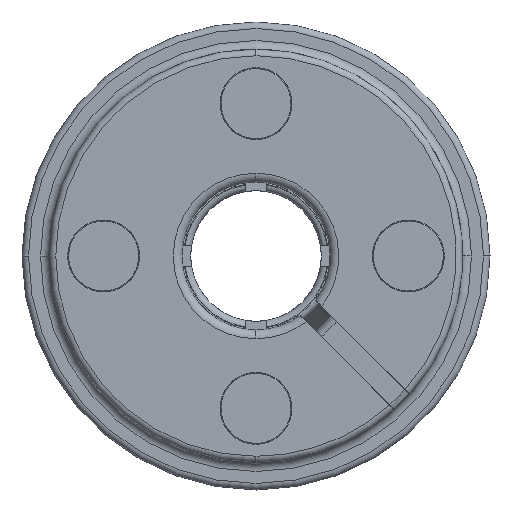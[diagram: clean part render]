
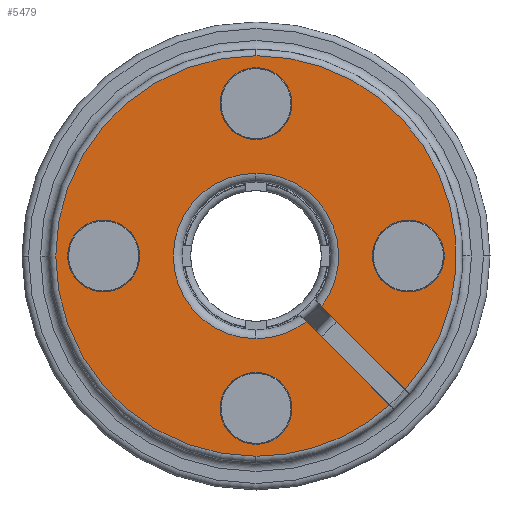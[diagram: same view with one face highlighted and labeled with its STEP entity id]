
A CAD part, left-side view. The second image highlights one B-rep face of the part: STEP entity #5479.
In plain terms, the highlighted planar face has unit normal (-1, 0, 0).
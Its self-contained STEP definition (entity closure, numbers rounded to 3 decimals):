
#2549 = CARTESIAN_POINT ( 'NONE',  ( -4.188, -2.641, -2.31 ) ) ;
#2626 = DIRECTION ( 'NONE',  ( 0., 0., 1. ) ) ;
#2653 = CARTESIAN_POINT ( 'NONE',  ( -4.188, 0.376, 3.8 ) ) ;
#2660 = AXIS2_PLACEMENT_3D ( 'NONE', #2666, #2661, #2626 ) ;
#2661 = DIRECTION ( 'NONE',  ( -1., 0., 0. ) ) ;
#2662 = CIRCLE ( 'NONE', #2660, 9.2 ) ;
#2666 = CARTESIAN_POINT ( 'NONE',  ( -4.188, 0.376, 0. ) ) ;
#2927 = DIRECTION ( 'NONE',  ( 1., 0., 0. ) ) ;
#3102 = DIRECTION ( 'NONE',  ( 0., 0., -1. ) ) ;
#3117 = CARTESIAN_POINT ( 'NONE',  ( -4.188, 0.376, 9.2 ) ) ;
#3130 = DIRECTION ( 'NONE',  ( 0., 0., 1. ) ) ;
#3131 = DIRECTION ( 'NONE',  ( 1., 0., 0. ) ) ;
#3132 = CARTESIAN_POINT ( 'NONE',  ( -4.188, -6.624, 0. ) ) ;
#3133 = AXIS2_PLACEMENT_3D ( 'NONE', #3132, #3131, #3130 ) ;
#3147 = CARTESIAN_POINT ( 'NONE',  ( -4.188, 7.376, 0. ) ) ;
#3148 = AXIS2_PLACEMENT_3D ( 'NONE', #3147, #2927, #3102 ) ;
#3155 = DIRECTION ( 'NONE',  ( 0., 0., 1. ) ) ;
#3156 = DIRECTION ( 'NONE',  ( -1., 0., 0. ) ) ;
#3157 = CARTESIAN_POINT ( 'NONE',  ( -4.188, 0.376, 0. ) ) ;
#3158 = AXIS2_PLACEMENT_3D ( 'NONE', #3157, #3156, #3155 ) ;
#3161 = CIRCLE ( 'NONE', #3148, 1.65 ) ;
#3163 = CIRCLE ( 'NONE', #3158, 9.2 ) ;
#3165 = CIRCLE ( 'NONE', #3133, 1.65 ) ;
#3170 = DIRECTION ( 'NONE',  ( -1., 0., 0. ) ) ;
#3172 = DIRECTION ( 'NONE',  ( 0., 0., 1. ) ) ;
#3173 = CARTESIAN_POINT ( 'NONE',  ( -4.188, 0.376, -9.2 ) ) ;
#3176 = CIRCLE ( 'NONE', #3186, 3.8 ) ;
#3177 = CARTESIAN_POINT ( 'NONE',  ( -4.188, 0.376, 0. ) ) ;
#3186 = AXIS2_PLACEMENT_3D ( 'NONE', #3177, #3170, #3172 ) ;
#3200 = CARTESIAN_POINT ( 'NONE',  ( -4.188, -6.473, -6.142 ) ) ;
#3205 = CARTESIAN_POINT ( 'NONE',  ( -4.188, -6.624, 1.65 ) ) ;
#3218 = DIRECTION ( 'NONE',  ( 0., -1., 0. ) ) ;
#3219 = DIRECTION ( 'NONE',  ( 1., 0., 0. ) ) ;
#3230 = CARTESIAN_POINT ( 'NONE',  ( -4.188, 0.376, -7. ) ) ;
#3237 = AXIS2_PLACEMENT_3D ( 'NONE', #3230, #3219, #3218 ) ;
#3242 = CIRCLE ( 'NONE', #3237, 1.65 ) ;
#3244 = CARTESIAN_POINT ( 'NONE',  ( -4.188, -1.274, -7. ) ) ;
#3277 = CARTESIAN_POINT ( 'NONE',  ( -4.188, -6.624, -1.65 ) ) ;
#3307 = CARTESIAN_POINT ( 'NONE',  ( -4.188, 7.376, 1.65 ) ) ;
#3311 = DIRECTION ( 'NONE',  ( 0., 0., -1. ) ) ;
#3317 = AXIS2_PLACEMENT_3D ( 'NONE', #3341, #3381, #3311 ) ;
#3331 = CARTESIAN_POINT ( 'NONE',  ( -4.188, 0.376, 7. ) ) ;
#3332 = CIRCLE ( 'NONE', #3317, 1.65 ) ;
#3335 = CARTESIAN_POINT ( 'NONE',  ( -4.188, 7.376, -1.65 ) ) ;
#3341 = CARTESIAN_POINT ( 'NONE',  ( -4.188, 7.376, 0. ) ) ;
#3356 = AXIS2_PLACEMENT_3D ( 'NONE', #3331, #3399, #3398 ) ;
#3374 = CARTESIAN_POINT ( 'NONE',  ( -4.188, 2.026, -7. ) ) ;
#3381 = DIRECTION ( 'NONE',  ( 1., 0., 0. ) ) ;
#3390 = CIRCLE ( 'NONE', #3356, 1.65 ) ;
#3398 = DIRECTION ( 'NONE',  ( 0., 1., 0. ) ) ;
#3399 = DIRECTION ( 'NONE',  ( 1., 0., 0. ) ) ;
#3436 = DIRECTION ( 'NONE',  ( 1., 0., 0. ) ) ;
#3449 = CARTESIAN_POINT ( 'NONE',  ( -4.188, 9.576, 0. ) ) ;
#3469 = CARTESIAN_POINT ( 'NONE',  ( -4.188, -1.274, 7. ) ) ;
#3502 = PLANE ( 'NONE',  #3503 ) ;
#3503 = AXIS2_PLACEMENT_3D ( 'NONE', #3449, #3436, #3568 ) ;
#3524 = CARTESIAN_POINT ( 'NONE',  ( -4.188, -0.902, -1.985 ) ) ;
#3537 = DIRECTION ( 'NONE',  ( 1., 0., 0. ) ) ;
#3538 = CARTESIAN_POINT ( 'NONE',  ( -4.188, 0.376, 7. ) ) ;
#3539 = CIRCLE ( 'NONE', #3550, 1.65 ) ;
#3542 = AXIS2_PLACEMENT_3D ( 'NONE', #3565, #3564, #3563 ) ;
#3543 = DIRECTION ( 'NONE',  ( 0., 0.707, 0.707 ) ) ;
#3544 = VECTOR ( 'NONE', #3543, 1000. ) ;
#3545 = CARTESIAN_POINT ( 'NONE',  ( -4.188, -1.934, -3.017 ) ) ;
#3550 = AXIS2_PLACEMENT_3D ( 'NONE', #3538, #3537, #3571 ) ;
#3554 = CARTESIAN_POINT ( 'NONE',  ( -4.188, 2.026, 7. ) ) ;
#3563 = DIRECTION ( 'NONE',  ( 0., 0., 1. ) ) ;
#3564 = DIRECTION ( 'NONE',  ( -1., 0., 0. ) ) ;
#3565 = CARTESIAN_POINT ( 'NONE',  ( -4.188, 0.376, 0. ) ) ;
#3566 = CIRCLE ( 'NONE', #3542, 3.8 ) ;
#3568 = DIRECTION ( 'NONE',  ( 0., 0., -1. ) ) ;
#3571 = DIRECTION ( 'NONE',  ( 0., 1., 0. ) ) ;
#3573 = LINE ( 'NONE', #3524, #3544 ) ;
#3584 = CARTESIAN_POINT ( 'NONE',  ( -4.188, 0.376, 0. ) ) ;
#3626 = CARTESIAN_POINT ( 'NONE',  ( -4.188, 0.376, -3.8 ) ) ;
#3653 = DIRECTION ( 'NONE',  ( 0., 0., 1. ) ) ;
#3654 = DIRECTION ( 'NONE',  ( -1., 0., 0. ) ) ;
#3717 = AXIS2_PLACEMENT_3D ( 'NONE', #3584, #3654, #3653 ) ;
#3733 = CIRCLE ( 'NONE', #3717, 3.8 ) ;
#3743 = AXIS2_PLACEMENT_3D ( 'NONE', #3767, #3766, #3765 ) ;
#3747 = CIRCLE ( 'NONE', #3743, 1.65 ) ;
#3749 = AXIS2_PLACEMENT_3D ( 'NONE', #3772, #3771, #3761 ) ;
#3750 = FACE_OUTER_BOUND ( 'NONE', #5489, .T. ) ;
#3751 = AXIS2_PLACEMENT_3D ( 'NONE', #3760, #3759, #3758 ) ;
#3752 = FACE_BOUND ( 'NONE', #5466, .T. ) ;
#3753 = FACE_BOUND ( 'NONE', #5498, .T. ) ;
#3754 = DIRECTION ( 'NONE',  ( 0., -0.707, -0.707 ) ) ;
#3755 = VECTOR ( 'NONE', #3754, 1000. ) ;
#3756 = CARTESIAN_POINT ( 'NONE',  ( -4.188, -1.609, -1.278 ) ) ;
#3757 = LINE ( 'NONE', #3756, #3755 ) ;
#3758 = DIRECTION ( 'NONE',  ( 0., 0., 1. ) ) ;
#3759 = DIRECTION ( 'NONE',  ( -1., 0., 0. ) ) ;
#3760 = CARTESIAN_POINT ( 'NONE',  ( -4.188, 0.376, 0. ) ) ;
#3761 = DIRECTION ( 'NONE',  ( 0., -1., 0. ) ) ;
#3765 = DIRECTION ( 'NONE',  ( 0., 0., 1. ) ) ;
#3766 = DIRECTION ( 'NONE',  ( 1., 0., 0. ) ) ;
#3767 = CARTESIAN_POINT ( 'NONE',  ( -4.188, -6.624, 0. ) ) ;
#3768 = CIRCLE ( 'NONE', #3749, 1.65 ) ;
#3771 = DIRECTION ( 'NONE',  ( 1., 0., 0. ) ) ;
#3772 = CARTESIAN_POINT ( 'NONE',  ( -4.188, 0.376, -7. ) ) ;
#3773 = FACE_BOUND ( 'NONE', #5450, .T. ) ;
#3774 = CIRCLE ( 'NONE', #3751, 9.2 ) ;
#3776 = FACE_BOUND ( 'NONE', #5445, .T. ) ;
#3789 = CARTESIAN_POINT ( 'NONE',  ( -4.188, -5.766, -6.849 ) ) ;
#5053 = VERTEX_POINT ( 'NONE', #3626 ) ;
#5060 = EDGE_CURVE ( 'NONE', #5175, #5053, #3733, .T. ) ;
#5131 = VERTEX_POINT ( 'NONE', #2549 ) ;
#5175 = VERTEX_POINT ( 'NONE', #2653 ) ;
#5203 = EDGE_CURVE ( 'NONE', #5215, #5259, #2662, .T. ) ;
#5215 = VERTEX_POINT ( 'NONE', #3117 ) ;
#5223 = EDGE_CURVE ( 'NONE', #5288, #5247, #3165, .T. ) ;
#5230 = EDGE_CURVE ( 'NONE', #5252, #5215, #3163, .T. ) ;
#5243 = EDGE_CURVE ( 'NONE', #5131, #5175, #3176, .T. ) ;
#5247 = VERTEX_POINT ( 'NONE', #3205 ) ;
#5252 = VERTEX_POINT ( 'NONE', #3200 ) ;
#5259 = VERTEX_POINT ( 'NONE', #3173 ) ;
#5266 = EDGE_CURVE ( 'NONE', #5316, #5358, #3161, .T. ) ;
#5274 = EDGE_CURVE ( 'NONE', #5350, #5280, #3242, .T. ) ;
#5280 = VERTEX_POINT ( 'NONE', #3244 ) ;
#5288 = VERTEX_POINT ( 'NONE', #3277 ) ;
#5316 = VERTEX_POINT ( 'NONE', #3307 ) ;
#5322 = EDGE_CURVE ( 'NONE', #5404, #5440, #3390, .T. ) ;
#5350 = VERTEX_POINT ( 'NONE', #3374 ) ;
#5358 = VERTEX_POINT ( 'NONE', #3335 ) ;
#5387 = EDGE_CURVE ( 'NONE', #5358, #5316, #3332, .T. ) ;
#5404 = VERTEX_POINT ( 'NONE', #3469 ) ;
#5440 = VERTEX_POINT ( 'NONE', #3554 ) ;
#5445 = EDGE_LOOP ( 'NONE', ( #5502, #5505 ) ) ;
#5447 = EDGE_CURVE ( 'NONE', #5440, #5404, #3539, .T. ) ;
#5448 = ORIENTED_EDGE ( 'NONE', *, *, #5482, .T. ) ;
#5449 = ORIENTED_EDGE ( 'NONE', *, *, #5230, .T. ) ;
#5450 = EDGE_LOOP ( 'NONE', ( #5468, #5451 ) ) ;
#5451 = ORIENTED_EDGE ( 'NONE', *, *, #5266, .T. ) ;
#5452 = ORIENTED_EDGE ( 'NONE', *, *, #5473, .T. ) ;
#5453 = ORIENTED_EDGE ( 'NONE', *, *, #5457, .F. ) ;
#5454 = EDGE_CURVE ( 'NONE', #5493, #5456, #3573, .T. ) ;
#5456 = VERTEX_POINT ( 'NONE', #3545 ) ;
#5457 = EDGE_CURVE ( 'NONE', #5053, #5456, #3566, .T. ) ;
#5466 = EDGE_LOOP ( 'NONE', ( #5491, #5480 ) ) ;
#5467 = ORIENTED_EDGE ( 'NONE', *, *, #5223, .T. ) ;
#5468 = ORIENTED_EDGE ( 'NONE', *, *, #5387, .T. ) ;
#5470 = ORIENTED_EDGE ( 'NONE', *, *, #5060, .F. ) ;
#5473 = EDGE_CURVE ( 'NONE', #5247, #5288, #3747, .T. ) ;
#5475 = EDGE_CURVE ( 'NONE', #5131, #5252, #3757, .T. ) ;
#5477 = EDGE_CURVE ( 'NONE', #5280, #5350, #3768, .T. ) ;
#5478 = ORIENTED_EDGE ( 'NONE', *, *, #5475, .T. ) ;
#5479 = ADVANCED_FACE ( 'NONE', ( #3776, #3753, #3752, #3773, #3750 ), #3502, .F. ) ;
#5480 = ORIENTED_EDGE ( 'NONE', *, *, #5274, .T. ) ;
#5482 = EDGE_CURVE ( 'NONE', #5259, #5493, #3774, .T. ) ;
#5489 = EDGE_LOOP ( 'NONE', ( #5490, #5478, #5449, #5495, #5448, #5494, #5453, #5470 ) ) ;
#5490 = ORIENTED_EDGE ( 'NONE', *, *, #5243, .F. ) ;
#5491 = ORIENTED_EDGE ( 'NONE', *, *, #5477, .T. ) ;
#5493 = VERTEX_POINT ( 'NONE', #3789 ) ;
#5494 = ORIENTED_EDGE ( 'NONE', *, *, #5454, .T. ) ;
#5495 = ORIENTED_EDGE ( 'NONE', *, *, #5203, .T. ) ;
#5498 = EDGE_LOOP ( 'NONE', ( #5452, #5467 ) ) ;
#5502 = ORIENTED_EDGE ( 'NONE', *, *, #5447, .T. ) ;
#5505 = ORIENTED_EDGE ( 'NONE', *, *, #5322, .T. ) ;
